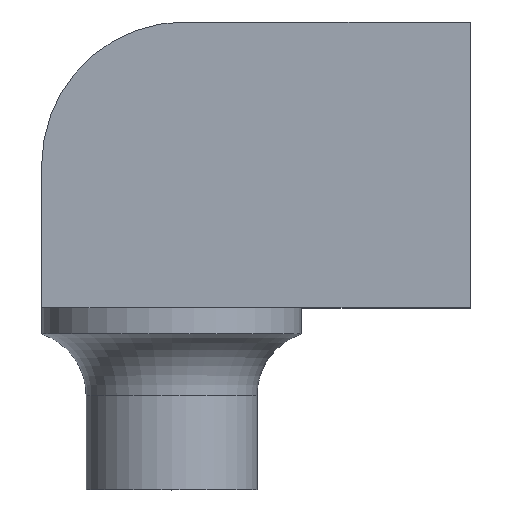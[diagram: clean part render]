
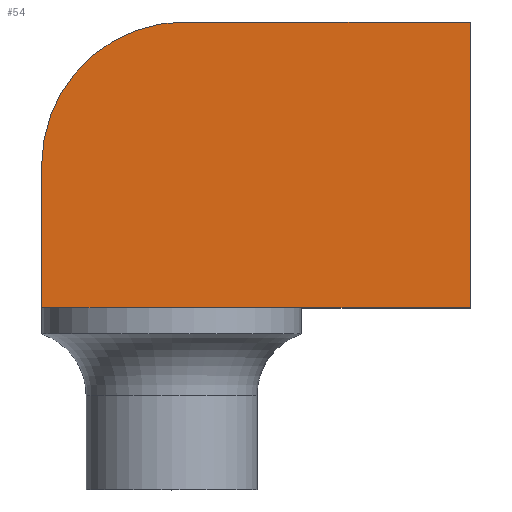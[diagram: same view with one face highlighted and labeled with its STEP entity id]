
A CAD part, top view. The second image highlights one B-rep face of the part: STEP entity #54.
In plain terms, the highlighted planar face has unit normal (0, 0, 1).
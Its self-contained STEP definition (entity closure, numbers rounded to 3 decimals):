
#1 = CARTESIAN_POINT ( 'NONE',  ( 0., 0., 20. ) ) ;
#6 = CARTESIAN_POINT ( 'NONE',  ( 16.5, -11., 20. ) ) ;
#21 = CARTESIAN_POINT ( 'NONE',  ( -16.5, -11., 20. ) ) ;
#22 = EDGE_CURVE ( 'NONE', #225, #234, #454, .T. ) ;
#33 = DIRECTION ( 'NONE',  ( 0., 0., 1. ) ) ;
#54 = ADVANCED_FACE ( 'NONE', ( #117 ), #102, .T. ) ;
#70 = VECTOR ( 'NONE', #186, 1000. ) ;
#79 = LINE ( 'NONE', #349, #126 ) ;
#82 = ORIENTED_EDGE ( 'NONE', *, *, #298, .T. ) ;
#101 = VECTOR ( 'NONE', #227, 1000. ) ;
#102 = PLANE ( 'NONE',  #165 ) ;
#112 = CARTESIAN_POINT ( 'NONE',  ( 16.5, 11., 20. ) ) ;
#117 = FACE_OUTER_BOUND ( 'NONE', #421, .T. ) ;
#122 = CARTESIAN_POINT ( 'NONE',  ( -16.5, -11., 20. ) ) ;
#124 = ORIENTED_EDGE ( 'NONE', *, *, #176, .T. ) ;
#126 = VECTOR ( 'NONE', #469, 1000. ) ;
#138 = EDGE_CURVE ( 'NONE', #234, #464, #419, .T. ) ;
#144 = CARTESIAN_POINT ( 'NONE',  ( 16.5, -11., 20. ) ) ;
#158 = EDGE_CURVE ( 'NONE', #256, #322, #330, .T. ) ;
#165 = AXIS2_PLACEMENT_3D ( 'NONE', #1, #224, #221 ) ;
#176 = EDGE_CURVE ( 'NONE', #322, #225, #435, .T. ) ;
#184 = VECTOR ( 'NONE', #450, 1000. ) ;
#186 = DIRECTION ( 'NONE',  ( 1., 0., 0. ) ) ;
#204 = CARTESIAN_POINT ( 'NONE',  ( -6.5, -11., 20. ) ) ;
#210 = EDGE_CURVE ( 'NONE', #460, #256, #79, .T. ) ;
#221 = DIRECTION ( 'NONE',  ( 1., 0., 0. ) ) ;
#224 = DIRECTION ( 'NONE',  ( 0., 0., 1. ) ) ;
#225 = VERTEX_POINT ( 'NONE', #21 ) ;
#227 = DIRECTION ( 'NONE',  ( 0., -1., 0. ) ) ;
#234 = VERTEX_POINT ( 'NONE', #204 ) ;
#242 = ORIENTED_EDGE ( 'NONE', *, *, #22, .T. ) ;
#256 = VERTEX_POINT ( 'NONE', #350 ) ;
#261 = AXIS2_PLACEMENT_3D ( 'NONE', #329, #33, #444 ) ;
#268 = ORIENTED_EDGE ( 'NONE', *, *, #158, .T. ) ;
#298 = EDGE_CURVE ( 'NONE', #464, #460, #406, .T. ) ;
#322 = VERTEX_POINT ( 'NONE', #360 ) ;
#329 = CARTESIAN_POINT ( 'NONE',  ( -5.5, 0., 20. ) ) ;
#330 = CIRCLE ( 'NONE', #261, 11. ) ;
#338 = DIRECTION ( 'NONE',  ( 1., 0., 0. ) ) ;
#340 = ORIENTED_EDGE ( 'NONE', *, *, #138, .T. ) ;
#349 = CARTESIAN_POINT ( 'NONE',  ( 16.5, 11., 20. ) ) ;
#350 = CARTESIAN_POINT ( 'NONE',  ( -5.5, 11., 20. ) ) ;
#352 = VECTOR ( 'NONE', #338, 1000. ) ;
#354 = CARTESIAN_POINT ( 'NONE',  ( 16.5, -11., 20. ) ) ;
#360 = CARTESIAN_POINT ( 'NONE',  ( -16.5, 0., 20. ) ) ;
#406 = LINE ( 'NONE', #354, #184 ) ;
#408 = CARTESIAN_POINT ( 'NONE',  ( 16.5, -11., 20. ) ) ;
#419 = LINE ( 'NONE', #6, #70 ) ;
#421 = EDGE_LOOP ( 'NONE', ( #455, #268, #124, #242, #340, #82 ) ) ;
#435 = LINE ( 'NONE', #122, #101 ) ;
#444 = DIRECTION ( 'NONE',  ( 1., 0., 0. ) ) ;
#450 = DIRECTION ( 'NONE',  ( 0., 1., 0. ) ) ;
#454 = LINE ( 'NONE', #408, #352 ) ;
#455 = ORIENTED_EDGE ( 'NONE', *, *, #210, .T. ) ;
#460 = VERTEX_POINT ( 'NONE', #112 ) ;
#464 = VERTEX_POINT ( 'NONE', #144 ) ;
#469 = DIRECTION ( 'NONE',  ( -1., 0., 0. ) ) ;
